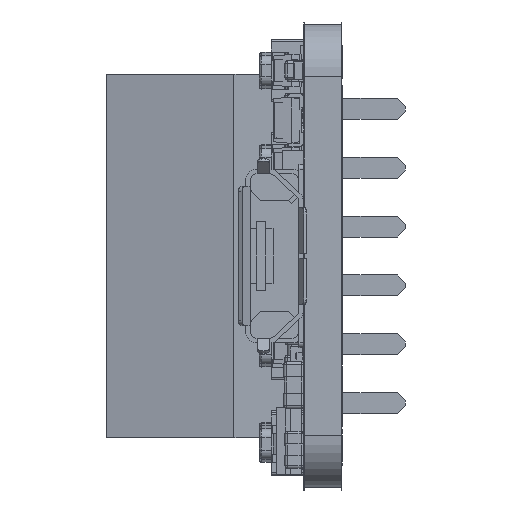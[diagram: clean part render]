
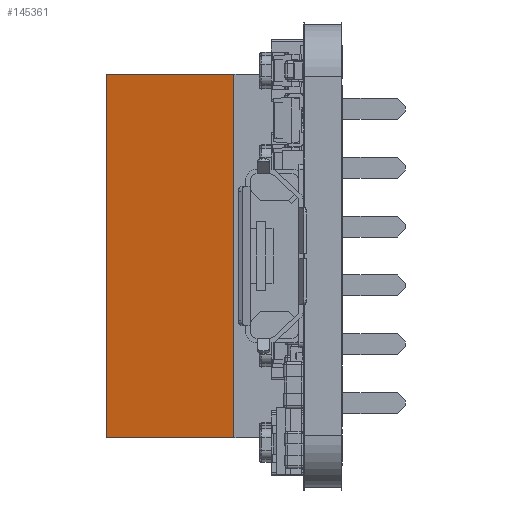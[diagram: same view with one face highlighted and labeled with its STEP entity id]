
A CAD part, left-side view. The second image highlights one B-rep face of the part: STEP entity #145361.
In plain terms, the highlighted planar face has unit normal (-0.977, 0.213, 0) as drawn and (0.977, 0.213, 0) by its records, which use the part's own axes.
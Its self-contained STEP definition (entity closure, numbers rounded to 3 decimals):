
#271 = CARTESIAN_POINT ( 'NONE',  ( 3.1, 3., 5.08 ) ) ;
#272 = DIRECTION ( 'NONE',  ( 0., 0., 1. ) ) ;
#322 = CARTESIAN_POINT ( 'NONE',  ( 1.9, 8.5, 5.08 ) ) ;
#323 = DIRECTION ( 'NONE',  ( 0., 0., 1. ) ) ;
#330 = CARTESIAN_POINT ( 'NONE',  ( 3.1, 3., 7.85 ) ) ;
#331 = DIRECTION ( 'NONE',  ( -0.213, 0.977, 0. ) ) ;
#334 = CARTESIAN_POINT ( 'NONE',  ( 1.9, 8.5, -7.85 ) ) ;
#335 = DIRECTION ( 'NONE',  ( 0.213, -0.977, 0. ) ) ;
#29480 = CARTESIAN_POINT ( 'NONE',  ( 1.9, 8.5, 7.85 ) ) ;
#29974 = CARTESIAN_POINT ( 'NONE',  ( 3.1, 3., -7.85 ) ) ;
#30464 = CARTESIAN_POINT ( 'NONE',  ( 1.9, 8.5, -7.85 ) ) ;
#35511 = EDGE_CURVE ( 'NONE', #72152, #72662, #111145, .T. ) ;
#35570 = EDGE_CURVE ( 'NONE', #72292, #71981, #111172, .T. ) ;
#35577 = EDGE_CURVE ( 'NONE', #72662, #71981, #111176, .T. ) ;
#35582 = EDGE_CURVE ( 'NONE', #72292, #72152, #111178, .T. ) ;
#41594 = CARTESIAN_POINT ( 'NONE',  ( 3.1, 3., 7.85 ) ) ;
#71981 = VERTEX_POINT ( 'NONE', #29480 ) ;
#72152 = VERTEX_POINT ( 'NONE', #29974 ) ;
#72292 = VERTEX_POINT ( 'NONE', #30464 ) ;
#72662 = VERTEX_POINT ( 'NONE', #41594 ) ;
#107417 = FACE_OUTER_BOUND ( 'NONE', #112969, .T. ) ;
#108253 = PLANE ( 'NONE',  #109070 ) ;
#108254 = CARTESIAN_POINT ( 'NONE',  ( 3.1, 3., 5.08 ) ) ;
#108255 = DIRECTION ( 'NONE',  ( 0.977, 0.213, 0. ) ) ;
#108256 = DIRECTION ( 'NONE',  ( -0.213, 0.977, 0. ) ) ;
#109070 = AXIS2_PLACEMENT_3D ( 'NONE', #108254, #108255, #108256 ) ;
#111145 = LINE ( 'NONE', #271, #111147 ) ;
#111147 = VECTOR ( 'NONE', #272, 1000. ) ;
#111172 = LINE ( 'NONE', #322, #111173 ) ;
#111173 = VECTOR ( 'NONE', #323, 1000. ) ;
#111176 = LINE ( 'NONE', #330, #111177 ) ;
#111177 = VECTOR ( 'NONE', #331, 1000. ) ;
#111178 = LINE ( 'NONE', #334, #111179 ) ;
#111179 = VECTOR ( 'NONE', #335, 1000. ) ;
#112969 = EDGE_LOOP ( 'NONE', ( #127554, #127555, #127556, #127557 ) ) ;
#127554 = ORIENTED_EDGE ( 'NONE', *, *, #35570, .T. ) ;
#127555 = ORIENTED_EDGE ( 'NONE', *, *, #35577, .F. ) ;
#127556 = ORIENTED_EDGE ( 'NONE', *, *, #35511, .F. ) ;
#127557 = ORIENTED_EDGE ( 'NONE', *, *, #35582, .F. ) ;
#145361 = ADVANCED_FACE ( 'NONE', ( #107417 ), #108253, .T. ) ;
